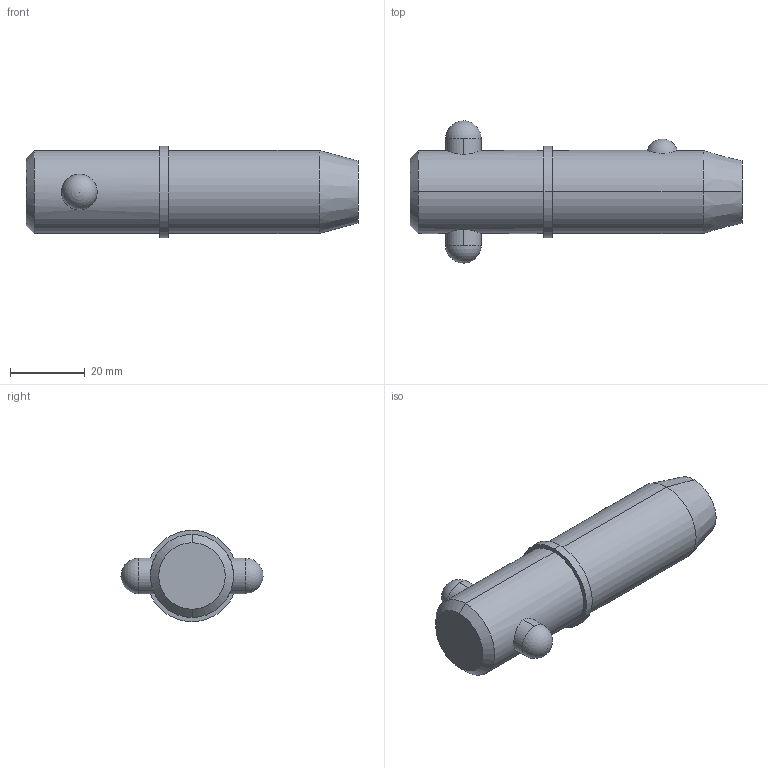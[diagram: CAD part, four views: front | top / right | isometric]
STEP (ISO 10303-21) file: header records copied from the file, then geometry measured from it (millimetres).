
FILE_DESCRIPTION (( 'STEP AP203' ), '1' );
FILE_NAME ('33018.W8810.step', '2024-11-19T17:21:43', ( '' ), ( '' ), 'SwSTEP 2.0', 'SolidWorks 2019', '' );
FILE_SCHEMA (( 'CONFIG_CONTROL_DESIGN' ));
Length unit declared in the file: millimetre
Products named in the file (3): Part2_33018.W8810; 33018.W8810; Part1_33018.W8810
Assembly tree (2 placements, depth 2):
  33018.W8810
    Part1_33018.W8810
    Part2_33018.W8810
Bounding box: 88.9 x 38.1 x 24.45 mm (x, y, z)
Volume: 34646.4 mm3; surface area: 8491.9 mm2
Topology: 2 solids, 2 shells, 22 faces, 47 edges, 30 vertices
Faces by surface type: cylinder 10, sphere 4, cone 4, plane 4
Entity records: 1057 total; most frequent: CARTESIAN_POINT 300, DIRECTION 110, ORIENTED_EDGE 82, AXIS2_PLACEMENT_3D 48, EDGE_CURVE 41, EDGE_LOOP 27, VERTEX_POINT 26, PERSON_AND_ORGANIZATION 26
